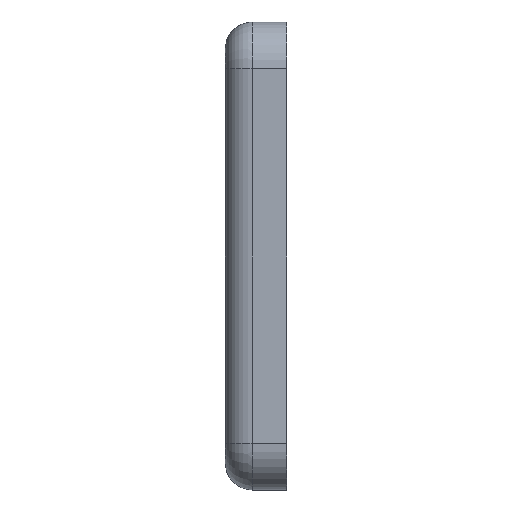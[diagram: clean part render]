
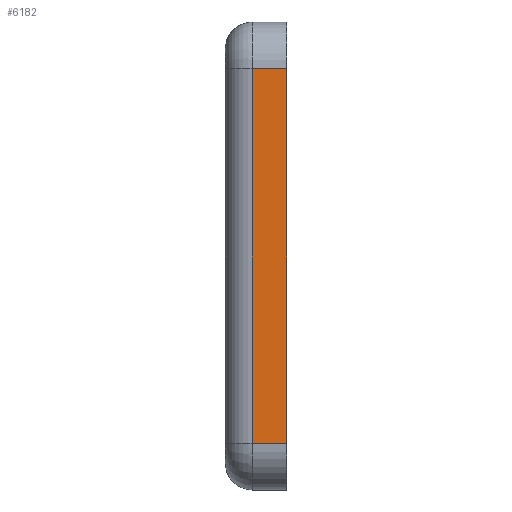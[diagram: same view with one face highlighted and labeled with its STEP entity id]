
A CAD part, left-side view. The second image highlights one B-rep face of the part: STEP entity #6182.
In plain terms, the highlighted planar face has unit normal (-1, 0, 0).
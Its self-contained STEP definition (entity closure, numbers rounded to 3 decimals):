
#6182 = ADVANCED_FACE ( 'NONE', ( #75912 ), #23320, .T. ) ;
#9215 = CARTESIAN_POINT ( 'NONE',  ( -11.285, 30.773, -6.968 ) ) ;
#9611 = ORIENTED_EDGE ( 'NONE', *, *, #77904, .T. ) ;
#11419 = CARTESIAN_POINT ( 'NONE',  ( -11.285, 0., 6.968 ) ) ;
#18162 = EDGE_LOOP ( 'NONE', ( #27576, #9611, #24591, #69252 ) ) ;
#23320 = PLANE ( 'NONE',  #57132 ) ;
#24591 = ORIENTED_EDGE ( 'NONE', *, *, #39493, .T. ) ;
#26663 = VERTEX_POINT ( 'NONE', #33838 ) ;
#27576 = ORIENTED_EDGE ( 'NONE', *, *, #52270, .F. ) ;
#30409 = LINE ( 'NONE', #65890, #63579 ) ;
#31319 = LINE ( 'NONE', #9215, #82156 ) ;
#33838 = CARTESIAN_POINT ( 'NONE',  ( -11.285, 0., 6.968 ) ) ;
#37794 = DIRECTION ( 'NONE',  ( 0., 0., 1. ) ) ;
#39493 = EDGE_CURVE ( 'NONE', #74542, #50896, #31319, .T. ) ;
#42877 = LINE ( 'NONE', #11419, #71895 ) ;
#45582 = DIRECTION ( 'NONE',  ( -1., 0., 0. ) ) ;
#46431 = CARTESIAN_POINT ( 'NONE',  ( -11.285, 1.277, 6.968 ) ) ;
#47054 = LINE ( 'NONE', #51471, #80233 ) ;
#50896 = VERTEX_POINT ( 'NONE', #75195 ) ;
#51471 = CARTESIAN_POINT ( 'NONE',  ( -11.285, 30.773, 6.968 ) ) ;
#52270 = EDGE_CURVE ( 'NONE', #69087, #26663, #47054, .T. ) ;
#52784 = EDGE_CURVE ( 'NONE', #50896, #26663, #42877, .T. ) ;
#57132 = AXIS2_PLACEMENT_3D ( 'NONE', #77374, #45582, #76065 ) ;
#57735 = CARTESIAN_POINT ( 'NONE',  ( -11.285, 1.277, -6.968 ) ) ;
#58118 = DIRECTION ( 'NONE',  ( 0., -1., 0. ) ) ;
#63579 = VECTOR ( 'NONE', #72584, 39.37 ) ;
#65890 = CARTESIAN_POINT ( 'NONE',  ( -11.285, 1.277, 6.968 ) ) ;
#69087 = VERTEX_POINT ( 'NONE', #46431 ) ;
#69252 = ORIENTED_EDGE ( 'NONE', *, *, #52784, .T. ) ;
#71895 = VECTOR ( 'NONE', #37794, 39.37 ) ;
#72584 = DIRECTION ( 'NONE',  ( 0., 0., -1. ) ) ;
#74542 = VERTEX_POINT ( 'NONE', #57735 ) ;
#75195 = CARTESIAN_POINT ( 'NONE',  ( -11.285, 0., -6.968 ) ) ;
#75321 = DIRECTION ( 'NONE',  ( 0., -1., 0. ) ) ;
#75912 = FACE_OUTER_BOUND ( 'NONE', #18162, .T. ) ;
#76065 = DIRECTION ( 'NONE',  ( 0., 0., 1. ) ) ;
#77374 = CARTESIAN_POINT ( 'NONE',  ( -11.285, 2.527, 6.968 ) ) ;
#77904 = EDGE_CURVE ( 'NONE', #69087, #74542, #30409, .T. ) ;
#80233 = VECTOR ( 'NONE', #58118, 39.37 ) ;
#82156 = VECTOR ( 'NONE', #75321, 39.37 ) ;
